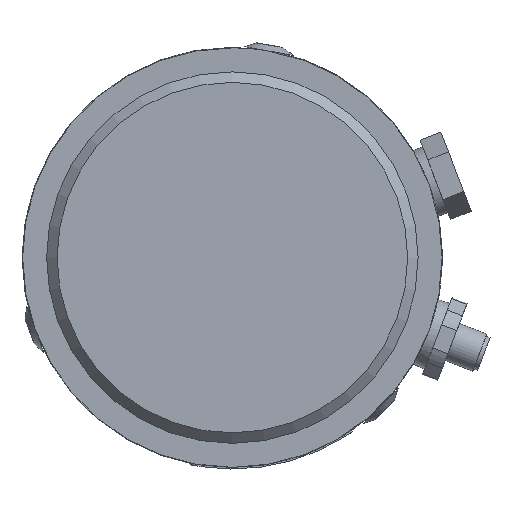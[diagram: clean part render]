
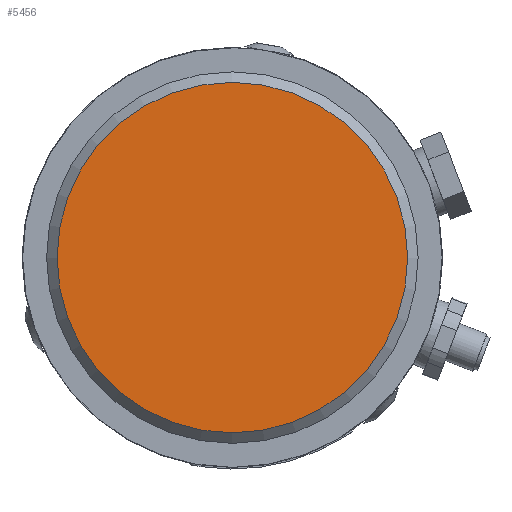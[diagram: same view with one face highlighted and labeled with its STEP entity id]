
A CAD part, front view. The second image highlights one B-rep face of the part: STEP entity #5456.
In plain terms, the highlighted planar face has unit normal (0, -1, 0).
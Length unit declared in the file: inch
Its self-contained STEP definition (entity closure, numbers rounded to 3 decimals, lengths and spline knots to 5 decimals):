
#312=PLANE('',#5921);
#507=FACE_OUTER_BOUND('',#876,.T.);
#876=EDGE_LOOP('',(#4347,#4348));
#1442=CIRCLE('',#5872,2.083);
#1443=CIRCLE('',#5873,2.083);
#2384=VERTEX_POINT('',#9102);
#2385=VERTEX_POINT('',#9104);
#2985=EDGE_CURVE('',#2384,#2385,#1442,.T.);
#2986=EDGE_CURVE('',#2385,#2384,#1443,.T.);
#4347=ORIENTED_EDGE('',*,*,#2986,.F.);
#4348=ORIENTED_EDGE('',*,*,#2985,.F.);
#5456=ADVANCED_FACE('',(#507),#312,.F.);
#5872=AXIS2_PLACEMENT_3D('',#9105,#6716,#6717);
#5873=AXIS2_PLACEMENT_3D('',#9106,#6718,#6719);
#5921=AXIS2_PLACEMENT_3D('',#10315,#6915,#6916);
#6716=DIRECTION('center_axis',(0.,1.,0.));
#6717=DIRECTION('ref_axis',(0.,0.,1.));
#6718=DIRECTION('center_axis',(0.,1.,0.));
#6719=DIRECTION('ref_axis',(0.,0.,1.));
#6915=DIRECTION('center_axis',(0.,1.,0.));
#6916=DIRECTION('ref_axis',(0.,0.,1.));
#9102=CARTESIAN_POINT('',(-0.28286,2.57844,-2.083));
#9104=CARTESIAN_POINT('',(-0.28286,2.57844,2.083));
#9105=CARTESIAN_POINT('Origin',(-0.28286,2.57844,0.));
#9106=CARTESIAN_POINT('Origin',(-0.28286,2.57844,0.));
#10315=CARTESIAN_POINT('Origin',(-0.28286,2.57844,0.));
